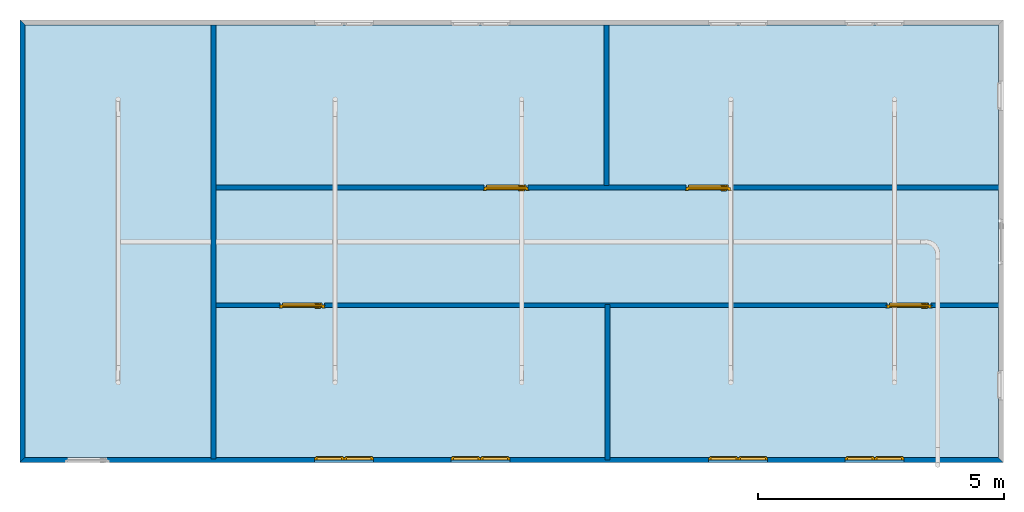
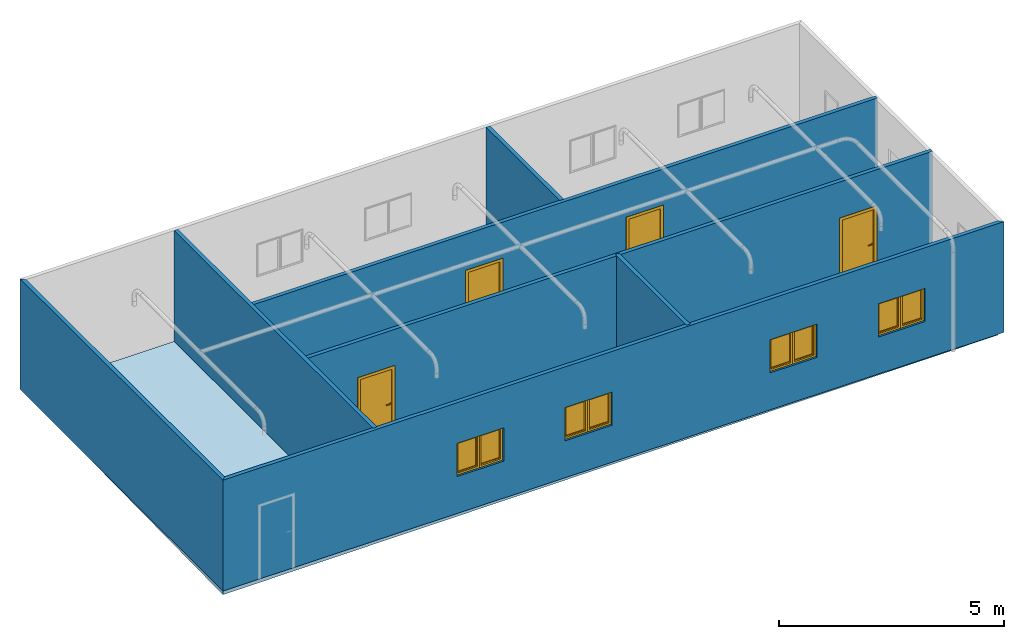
# One storey, part 1 of 4: 8 windows, 7 walls, 4 doors, 1 slab, 12 openings.
"""IFC4 building model written with IfcOpenShell, lengths in metres."""

import ifcopenshell
import ifcopenshell.guid

model = None  # the IFC model being written
_history = None  # IfcOwnerHistory: only IFC2X3 demands one
_inside = {}  # id of a spatial element -> (the spatial element, [elements in it])
_under = {}  # id of a project, library or spatial element -> (it, [spatial elements below it])
_declared = {}  # id of a project -> (the project, [libraries it declares])
_typed = {}  # id of a type object -> (the type object, [elements of that type])
_made_of = {}  # id of a material, layer set ... -> (it, [elements and type objects made of it])


def new_model(schema):
    """Start an empty IFC model of exactly this schema.

    Asked for "IFC4X3", IfcOpenShell would pick the latest addendum, in which some entities
    have other attributes; the version numbers below select the first issue.
    IFC2X3 requires an IfcOwnerHistory on every rooted entity: one is made here for all.
    """
    global model, _history
    if schema == "IFC4X3":
        model = ifcopenshell.file(schema_version=(4, 3, 0, 0))
    else:
        model = ifcopenshell.file(schema=schema)
    _inside.clear()
    _under.clear()
    _declared.clear()
    _typed.clear()
    _made_of.clear()
    _history = None
    if model.schema == "IFC2X3":
        org = make("IfcOrganization", Name="unknown")
        user = make(
            "IfcPersonAndOrganization",
            ThePerson=make("IfcPerson", FamilyName="unknown"),
            TheOrganization=org,
        )
        app = make(
            "IfcApplication",
            ApplicationDeveloper=org,
            Version="unknown",
            ApplicationFullName="unknown",
            ApplicationIdentifier="unknown",
        )
        _history = make(
            "IfcOwnerHistory",
            OwningUser=user,
            OwningApplication=app,
            ChangeAction="ADDED",
            CreationDate=0,
        )
    return model


def make(cls, **values):
    """One entity of the class cls with the attributes given. An attribute that is None is left unset."""
    return model.create_entity(
        cls, **{name: value for name, value in values.items() if value is not None}
    )


def entity(cls, *values):
    """Any entity or typed value of the class cls, its attributes in the order of the schema. None: left unset."""
    e = model.create_entity(cls)
    for i, value in enumerate(values):
        if value is not None:
            e[i] = value
    return e


def rooted(cls, **values):
    """An entity with a GlobalId (a new one), such as an element, a storey or a relation."""
    return make(cls, GlobalId=ifcopenshell.guid.new(), OwnerHistory=_history, **values)


def si_unit(unit_type, name, prefix=None):
    """IfcSIUnit, for example si_unit("LENGTHUNIT", "METRE", prefix="MILLI")."""
    return make("IfcSIUnit", UnitType=unit_type, Prefix=prefix, Name=name)


def converted_unit(unit_type, name, factor, base, dimensions=None, offset=None):
    """IfcConversionBasedUnit, such as the inch: factor (a typed value) times the base unit."""
    return make(
        "IfcConversionBasedUnit"
        if offset is None
        else "IfcConversionBasedUnitWithOffset",
        ConversionOffset=offset,
        Dimensions=None
        if dimensions is None
        else entity("IfcDimensionalExponents", *dimensions),
        UnitType=unit_type,
        Name=name,
        ConversionFactor=make(
            "IfcMeasureWithUnit", ValueComponent=factor, UnitComponent=base
        ),
    )


def assignment(units):
    """IfcUnitAssignment: the units of a project."""
    return None if units is None else make("IfcUnitAssignment", Units=units)


def point(xyz):
    """IfcCartesianPoint."""
    return None if xyz is None else make("IfcCartesianPoint", Coordinates=xyz)


def direction(xyz):
    """IfcDirection."""
    return None if xyz is None else make("IfcDirection", DirectionRatios=xyz)


def frame(location, z_axis=None, x_axis=None):
    """IfcAxis2Placement3D, a coordinate frame: its origin and axes. An axis left out is left unset."""
    return make(
        "IfcAxis2Placement3D",
        Location=point(location),
        Axis=direction(z_axis),
        RefDirection=direction(x_axis),
    )


def frame_2d(location, x_axis=None):
    """IfcAxis2Placement2D, a coordinate frame in the plane: its origin and x axis."""
    return make(
        "IfcAxis2Placement2D", Location=point(location), RefDirection=direction(x_axis)
    )


def origin_with_axes():
    """The frame at (0, 0, 0) with the z axis (0, 0, 1) and the x axis (1, 0, 0) written out."""
    return frame((0.0, 0.0, 0.0), z_axis=(0.0, 0.0, 1.0), x_axis=(1.0, 0.0, 0.0))


def origin_2d_with_axis():
    """The frame at (0, 0) in the plane with the x axis (1, 0) written out."""
    return frame_2d((0.0, 0.0), x_axis=(1.0, 0.0))


def place(relative_to, where):
    """IfcLocalPlacement: puts the frame where relative to a parent placement (None: the world)."""
    return make(
        "IfcLocalPlacement", PlacementRelTo=relative_to, RelativePlacement=where
    )


def context(
    kind, dimensions, precision=None, world=None, true_north=None, identifier=None
):
    """IfcGeometricRepresentationContext, for example the 3D "Model" context."""
    return make(
        "IfcGeometricRepresentationContext",
        ContextIdentifier=identifier,
        ContextType=kind,
        CoordinateSpaceDimension=dimensions,
        Precision=precision,
        WorldCoordinateSystem=world,
        TrueNorth=true_north,
    )


def subcontext(parent, identifier, kind, view, scale=None):
    """IfcGeometricRepresentationSubContext, for example "Body" below "Model"."""
    return make(
        "IfcGeometricRepresentationSubContext",
        ContextIdentifier=identifier,
        ContextType=kind,
        ParentContext=parent,
        TargetScale=scale,
        TargetView=view,
    )


def project(units=None, contexts=None):
    """IfcProject with its units and contexts."""
    return rooted(
        "IfcProject",
        Name="project",
        RepresentationContexts=contexts,
        UnitsInContext=assignment(units),
    )


def spatial(cls, under=None, at=None, **own):
    """A site, building, storey or space (cls), placed at a placement, below another one or the project."""
    s = rooted(cls, ObjectPlacement=at, **own)
    if under is not None:
        _under.setdefault(under.id(), (under, []))[1].append(s)
    return s


def point_list(points):
    """IfcCartesianPointList2D or 3D."""
    cls = (
        "IfcCartesianPointList2D" if len(points[0]) == 2 else "IfcCartesianPointList3D"
    )
    return make(cls, CoordList=points)


def line(*indices):
    """IfcLineIndex: a straight run through numbered points of an indexed curve."""
    return model.create_entity("IfcLineIndex", indices)


def indexed_curve(points, segments=None, self_intersect=None):
    """IfcIndexedPolyCurve: lines and arcs through numbered points (the first is 1)."""
    return make(
        "IfcIndexedPolyCurve",
        Points=point_list(points),
        Segments=segments,
        SelfIntersect=self_intersect,
    )


def outline(outer, holes=None, kind="AREA"):
    """IfcArbitraryClosedProfileDef: a profile drawn as a closed curve; with holes, ...WithVoids."""
    if holes is None:
        return make("IfcArbitraryClosedProfileDef", ProfileType=kind, OuterCurve=outer)
    return make(
        "IfcArbitraryProfileDefWithVoids",
        ProfileType=kind,
        OuterCurve=outer,
        InnerCurves=holes,
    )


def extrude(swept, where, along, depth):
    """IfcExtrudedAreaSolid: the profile swept, set in the frame where, extruded along a direction by depth."""
    return make(
        "IfcExtrudedAreaSolid",
        SweptArea=swept,
        Position=where,
        ExtrudedDirection=direction(along),
        Depth=depth,
    )


def shape(context_of_items, identifier, shape_type, items):
    """IfcShapeRepresentation: the items that make up one representation, for example the "Body"."""
    return make(
        "IfcShapeRepresentation",
        ContextOfItems=context_of_items,
        RepresentationIdentifier=identifier,
        RepresentationType=shape_type,
        Items=items,
    )


def source(mapping_origin, context_of_items, identifier, shape_type, items):
    """IfcRepresentationMap: a shape defined once, which mapped items show again and again."""
    return make(
        "IfcRepresentationMap",
        MappingOrigin=mapping_origin,
        MappedRepresentation=shape(context_of_items, identifier, shape_type, items),
    )


def transform(
    local_origin,
    x_axis=None,
    y_axis=None,
    z_axis=None,
    scale=None,
    scale2=None,
    scale3=None,
    uniform=True,
):
    """IfcCartesianTransformationOperator3D, or its non-uniform kind. x_axis, y_axis, z_axis: its Axis1, 2, 3."""
    if uniform:
        return make(
            "IfcCartesianTransformationOperator3D",
            Axis1=direction(x_axis),
            Axis2=direction(y_axis),
            LocalOrigin=point(local_origin),
            Scale=scale,
            Axis3=direction(z_axis),
        )
    return make(
        "IfcCartesianTransformationOperator3DnonUniform",
        Axis1=direction(x_axis),
        Axis2=direction(y_axis),
        LocalOrigin=point(local_origin),
        Scale=scale,
        Axis3=direction(z_axis),
        Scale2=scale2,
        Scale3=scale3,
    )


def mapped(mapping_source, mapping_target):
    """IfcMappedItem: shows the shape of a source again, moved by a transform."""
    return make(
        "IfcMappedItem", MappingSource=mapping_source, MappingTarget=mapping_target
    )


def material(Name=None, Category=None):
    """IfcMaterial."""
    return make("IfcMaterial", Name=Name, Category=Category)


def layer(
    of_material, thickness, ventilated=None, Name=None, Category=None, Priority=None
):
    """IfcMaterialLayer: one layer of a wall or slab, of a material (None: an air gap)."""
    return make(
        "IfcMaterialLayer",
        Material=of_material,
        LayerThickness=thickness,
        IsVentilated=ventilated,
        Name=Name,
        Category=Category,
        Priority=Priority,
    )


def layer_set(layers, Name=None):
    """IfcMaterialLayerSet."""
    return make("IfcMaterialLayerSet", MaterialLayers=layers, LayerSetName=Name)


def layer_usage(for_layer_set, set_direction, sense, offset, extent=None):
    """IfcMaterialLayerSetUsage: how a layer set lies in its element."""
    return make(
        "IfcMaterialLayerSetUsage",
        ForLayerSet=for_layer_set,
        LayerSetDirection=set_direction,
        DirectionSense=sense,
        OffsetFromReferenceLine=offset,
        ReferenceExtent=extent,
    )


def made_of(thing, what):
    """Note that an element or type object is made of a material, layer set ...; save() writes the relation."""
    if what is not None:
        _made_of.setdefault(what.id(), (what, []))[1].append(thing)
    return thing


def type_object(cls, material=None, **own):
    """A type object (cls), such as IfcWallType, which elements share."""
    return made_of(rooted(cls, **own), material)


def type_shapes(of_type, sources):
    """Give a type object the sources (RepresentationMaps) that its elements show as mapped items."""
    of_type.RepresentationMaps = sources


def element(
    cls,
    number,
    at=None,
    inside=None,
    cuts=None,
    type_object=None,
    material=None,
    context=None,
    identifier="Body",
    shape_type=None,
    held_by="IfcProductDefinitionShape",
    body=None,
    shapes=None,
    **own,
):
    """One element of the class cls, such as IfcWall. Its Tag is "e" and its number.

    at: its placement. inside: the storey or other place that contains it. cuts: it is an
    opening in that element (IfcRelVoidsElement). A single representation is given by context,
    identifier, shape_type and body (its items); several are given by shapes. held_by: the class
    of the entity that holds the representations. save() writes the other relations.
    """
    e = rooted(cls, Tag="e%d" % number, ObjectPlacement=at, **own)
    if body is not None:
        shapes = [shape(context, identifier, shape_type, body)]
    if shapes is not None:
        e.Representation = make(held_by, Representations=shapes)
    if inside is not None:
        _inside.setdefault(inside.id(), (inside, []))[1].append(e)
    if cuts is not None:
        rooted(
            "IfcRelVoidsElement", RelatingBuildingElement=cuts, RelatedOpeningElement=e
        )
    if type_object is not None:
        _typed.setdefault(type_object.id(), (type_object, []))[1].append(e)
    return made_of(e, material)


def fill(opening, filler):
    """IfcRelFillsElement: the door or window that sits in an opening."""
    return rooted(
        "IfcRelFillsElement",
        RelatingOpeningElement=opening,
        RelatedBuildingElement=filler,
    )


def aggregate(whole, parts):
    """IfcRelAggregates: a whole, such as a stair, and the parts it consists of."""
    return rooted("IfcRelAggregates", RelatingObject=whole, RelatedObjects=parts)


def save(model, path):
    """Write the relations noted so far, then the file.

    IfcRelAggregates (storeys below a building ...), IfcRelContainedInSpatialStructure (elements
    in a storey), IfcRelDefinesByType, IfcRelAssociatesMaterial and IfcRelDeclares: one each for
    every whole, place, type object, material and project.
    """
    for whole, parts in _under.values():
        aggregate(whole, parts)
    for where, things in _inside.values():
        rooted(
            "IfcRelContainedInSpatialStructure",
            RelatedElements=things,
            RelatingStructure=where,
        )
    for kind, things in _typed.values():
        rooted("IfcRelDefinesByType", RelatedObjects=things, RelatingType=kind)
    for what, things in _made_of.values():
        rooted("IfcRelAssociatesMaterial", RelatedObjects=things, RelatingMaterial=what)
    for by, libraries in _declared.values():
        rooted("IfcRelDeclares", RelatingContext=by, RelatedDefinitions=libraries)
    model.write(path)


model = new_model("IFC4")

# Units and contexts
model_context = context("Model", 3, precision=1e-05, world=origin_with_axes())
plan_context = context("Plan", 2, precision=1e-05, world=origin_2d_with_axis())
body_context_1 = subcontext(model_context, "Body", "Model", "MODEL_VIEW")
body_context_2 = subcontext(plan_context, "Body", "Plan", "PLAN_VIEW")
ifc_project = project(units=[si_unit("LENGTHUNIT", "METRE"), converted_unit("PLANEANGLEUNIT", "degree", entity("IfcReal", 0.0174532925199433), si_unit("PLANEANGLEUNIT", "RADIAN"), dimensions=[0, 0, 0, 0, 0, 0, 0]), si_unit("AREAUNIT", "SQUARE_METRE"), si_unit("VOLUMEUNIT", "CUBIC_METRE")], contexts=[model_context, plan_context])

# Site, building, storey
site_placement = place(None, origin_with_axes())
site = spatial("IfcSite", under=ifc_project, at=site_placement, Name="My Site")
building_placement = place(site_placement, origin_with_axes())
building = spatial("IfcBuilding", under=site, at=building_placement, Name="My Building")
storey_placement = place(building_placement, origin_with_axes())
storey = spatial("IfcBuildingStorey", under=building, at=storey_placement, Name="GF")

# Slab
ifc_material = material(Name="Unknown")
ifc_layer_1 = layer(ifc_material, 0.1)
ifc_layer_set_1 = layer_set([ifc_layer_1])
ifc_layer_usage_1 = layer_usage(ifc_layer_set_1, "AXIS3", "POSITIVE", -0.100000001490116)
slab_type = type_object("IfcSlabType", Name="Unnamed", PredefinedType="FLOOR", material=ifc_layer_set_1)
slab_placement = place(storey_placement, frame((0.0999984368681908, 8.90000820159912, 0.0), z_axis=(0.0, 0.0, 1.0), x_axis=(1.0, 0.0, 0.0)))
element("IfcSlab", 1, at=slab_placement, inside=storey, type_object=slab_type, material=ifc_layer_usage_1, Name="Slab", context=body_context_1, shape_type="SweptSolid", body=[
    extrude(outline(indexed_curve([(0.0, 0.0), (19.8000011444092, -8.58306884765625e-06), (19.8000011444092, -8.80000782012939), (-0.0999984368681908, -8.90000820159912), (0.0, 0.0)])), frame((0.0, 0.0, -0.100000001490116), z_axis=(0.0, 0.0, 1.0), x_axis=(1.0, 0.0, 0.0)), (0.0, 0.0, 1.0), 0.1),
])

# Wall, openings, windows
ifc_layer_2 = layer(ifc_material, 0.1)
ifc_layer_set_2 = layer_set([ifc_layer_2])
ifc_layer_usage_2 = layer_usage(ifc_layer_set_2, "AXIS2", "POSITIVE", 0.0)
wall_type = type_object("IfcWallType", Name="Unnamed", PredefinedType="SOLIDWALL", material=ifc_layer_set_2)
wall_1_placement = place(storey_placement, frame((-3.9340253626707e-07, 0.0, 0.0), z_axis=(0.0, 0.0, 1.0), x_axis=(1.0, 0.0, 0.0)))
wall_1 = element("IfcWall", 2, at=wall_1_placement, inside=storey, type_object=wall_type, material=ifc_layer_usage_2, Name="Wall", context=body_context_1, shape_type="SweptSolid", body=[
    extrude(outline(indexed_curve([(0.0, 0.0), (0.100000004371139, 0.1), (19.9000004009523, 0.1), (20.0000003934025, 0.0)], segments=[line(1, 2, 3, 4, 1)])), origin_with_axes(), (0.0, 0.0, 1.0), 3.0),
])
shared_shape_1 = source(origin_with_axes(), body_context_1, "Body", "SweptSolid", [
    extrude(outline(indexed_curve([(0.0, 0.0), (0.600000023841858, 0.0), (0.600000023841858, 0.899999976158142), (0.0, 0.899999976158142)], segments=[line(1, 2, 3, 4, 1)])), frame((0.0, -0.600000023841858, 0.0), z_axis=(0.0, -1.0, 0.0), x_axis=(1.0, 0.0, 0.0)), (0.0, 0.0, -1.0), 1.2),
])
opening_1_placement = place(wall_1_placement, frame((17.38139764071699, 6.556510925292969e-07, 1.0), z_axis=(0.0, 0.0, 1.0), x_axis=(0.9999999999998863, -4.768371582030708e-07, 0.0)))
opening_1 = element("IfcOpeningElement", 3, at=opening_1_placement, cuts=wall_1, Name="Opening", PredefinedType="OPENING", context=body_context_1, shape_type="MappedRepresentation", body=[
    mapped(shared_shape_1, transform((0.0, 0.0, 0.0), x_axis=(1.0, 0.0, 0.0), y_axis=(0.0, 1.0, 0.0), z_axis=(0.0, 0.0, 1.0), scale=1.0)),
])
opening_2_placement = place(wall_1_placement, frame((14.008943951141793, 1.4901161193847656e-07, 1.0), z_axis=(0.0, 0.0, 1.0), x_axis=(0.9999999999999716, -2.3841857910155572e-07, 0.0)))
opening_2 = element("IfcOpeningElement", 4, at=opening_2_placement, cuts=wall_1, Name="Opening", PredefinedType="OPENING", context=body_context_1, shape_type="MappedRepresentation", body=[
    mapped(shared_shape_1, transform((0.0, 0.0, 0.0), x_axis=(1.0, 0.0, 0.0), y_axis=(0.0, 1.0, 0.0), z_axis=(0.0, 0.0, 1.0), scale=1.0)),
])
opening_3_placement = place(wall_1_placement, frame((6.59240666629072, 1.4901161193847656e-07, 1.0), z_axis=(0.0, 0.0, 1.0), x_axis=(0.9999999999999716, -2.3841857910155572e-07, 0.0)))
opening_3 = element("IfcOpeningElement", 5, at=opening_3_placement, cuts=wall_1, Name="Opening", PredefinedType="OPENING", context=body_context_1, shape_type="MappedRepresentation", body=[
    mapped(shared_shape_1, transform((0.0, 0.0, 0.0), x_axis=(1.0, 0.0, 0.0), y_axis=(0.0, 1.0, 0.0), z_axis=(0.0, 0.0, 1.0), scale=1.0)),
])
opening_4_placement = place(wall_1_placement, frame((5.992404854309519, 1.4901161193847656e-07, 1.0), z_axis=(0.0, 0.0, 1.0), x_axis=(0.9999999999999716, -2.3841857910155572e-07, 0.0)))
opening_4 = element("IfcOpeningElement", 6, at=opening_4_placement, cuts=wall_1, Name="Opening", PredefinedType="OPENING", context=body_context_1, shape_type="MappedRepresentation", body=[
    mapped(shared_shape_1, transform((0.0, 0.0, 0.0), x_axis=(1.0, 0.0, 0.0), y_axis=(0.0, 1.0, 0.0), z_axis=(0.0, 0.0, 1.0), scale=1.0)),
])
opening_5_placement = place(wall_1_placement, frame((14.608945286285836, 1.4901161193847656e-07, 1.0), z_axis=(0.0, 0.0, 1.0), x_axis=(0.9999999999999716, -2.3841857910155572e-07, 0.0)))
opening_5 = element("IfcOpeningElement", 7, at=opening_5_placement, cuts=wall_1, Name="Opening", PredefinedType="OPENING", context=body_context_1, shape_type="MappedRepresentation", body=[
    mapped(shared_shape_1, transform((0.0, 0.0, 0.0), x_axis=(1.0, 0.0, 0.0), y_axis=(0.0, 1.0, 0.0), z_axis=(0.0, 0.0, 1.0), scale=1.0)),
])
opening_6_placement = place(wall_1_placement, frame((16.78139535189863, 1.4901161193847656e-07, 1.0), z_axis=(0.0, 0.0, 1.0), x_axis=(0.9999999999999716, -2.3841857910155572e-07, 0.0)))
opening_6 = element("IfcOpeningElement", 8, at=opening_6_placement, cuts=wall_1, Name="Opening", PredefinedType="OPENING", context=body_context_1, shape_type="MappedRepresentation", body=[
    mapped(shared_shape_1, transform((0.0, 0.0, 0.0), x_axis=(1.0, 0.0, 0.0), y_axis=(0.0, 1.0, 0.0), z_axis=(0.0, 0.0, 1.0), scale=1.0)),
])
opening_7_placement = place(wall_1_placement, frame((9.364858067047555, 1.4901161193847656e-07, 1.0), z_axis=(0.0, 0.0, 1.0), x_axis=(0.9999999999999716, -2.3841857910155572e-07, 0.0)))
opening_7 = element("IfcOpeningElement", 9, at=opening_7_placement, cuts=wall_1, Name="Opening", PredefinedType="OPENING", context=body_context_1, shape_type="MappedRepresentation", body=[
    mapped(shared_shape_1, transform((0.0, 0.0, 0.0), x_axis=(1.0, 0.0, 0.0), y_axis=(0.0, 1.0, 0.0), z_axis=(0.0, 0.0, 1.0), scale=1.0)),
])
opening_8_placement = place(wall_1_placement, frame((8.764856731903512, 1.4901161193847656e-07, 1.0), z_axis=(0.0, 0.0, 1.0), x_axis=(0.9999999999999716, -2.3841857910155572e-07, 0.0)))
opening_8 = element("IfcOpeningElement", 10, at=opening_8_placement, cuts=wall_1, Name="Opening", PredefinedType="OPENING", context=body_context_1, shape_type="MappedRepresentation", body=[
    mapped(shared_shape_1, transform((0.0, 0.0, 0.0), x_axis=(1.0, 0.0, 0.0), y_axis=(0.0, 1.0, 0.0), z_axis=(0.0, 0.0, 1.0), scale=1.0)),
])
window_type = type_object("IfcWindowType", Name="Unnamed", PartitioningType="SINGLE_PANEL", PredefinedType="WINDOW")
shared_shape_2 = source(origin_with_axes(), body_context_1, "Body", "SweptSolid", [
    extrude(outline(indexed_curve([(0.0, 0.0), (0.600000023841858, 0.0), (0.600000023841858, 0.899999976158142), (0.0, 0.899999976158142)], segments=[line(1, 2, 3, 4, 1)]), holes=[indexed_curve([(0.025000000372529, 0.025000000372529), (0.575000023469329, 0.025000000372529), (0.575000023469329, 0.874999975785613), (0.025000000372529, 0.874999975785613)], segments=[line(1, 2, 3, 4, 1)])]), frame((0.0, 0.0900000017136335, 0.0), z_axis=(0.0, -1.0, 0.0), x_axis=(1.0, 0.0, 0.0)), (0.0, 0.0, -1.0), 0.00999999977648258),
    extrude(outline(indexed_curve([(0.0, 0.0), (0.600000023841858, 0.0), (0.600000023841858, 0.899999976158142), (0.0, 0.899999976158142)], segments=[line(1, 2, 3, 4, 1)]), holes=[indexed_curve([(0.0500000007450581, 0.0500000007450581), (0.5500000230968, 0.0500000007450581), (0.5500000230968, 0.849999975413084), (0.0500000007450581, 0.849999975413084)], segments=[line(1, 2, 3, 4, 1)])]), frame((0.0, 0.0500000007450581, 0.0), z_axis=(0.0, -1.0, 0.0), x_axis=(1.0, 0.0, 0.0)), (0.0, 0.0, -1.0), 0.0400000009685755),
    extrude(outline(indexed_curve([(0.0, 0.0), (0.5500000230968, 0.0), (0.5500000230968, 0.849999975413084), (0.0, 0.849999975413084)], segments=[line(1, 2, 3, 4, 1)]), holes=[indexed_curve([(0.0350000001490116, 0.0350000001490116), (0.515000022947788, 0.0350000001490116), (0.515000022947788, 0.814999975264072), (0.0350000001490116, 0.814999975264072)], segments=[line(1, 2, 3, 4, 1)])]), frame((0.025000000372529, 0.0900000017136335, 0.025000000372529), z_axis=(0.0, -1.0, 0.0), x_axis=(1.0, 0.0, 0.0)), (0.0, 0.0, -1.0), 0.0350000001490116),
    extrude(outline(indexed_curve([(0.0350000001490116, 0.0350000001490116), (0.515000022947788, 0.0350000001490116), (0.515000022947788, 0.814999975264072), (0.0350000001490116, 0.814999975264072)], segments=[line(1, 2, 3, 4, 1)])), frame((0.025000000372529, 0.102500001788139, 0.025000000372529), z_axis=(0.0, -1.0, 0.0), x_axis=(1.0, 0.0, 0.0)), (0.0, 0.0, -1.0), 0.01),
])
shared_shape_3 = source(origin_with_axes(), body_context_2, "Body", "Curve2D", [
    entity("IfcIndexedPolyCurve", entity("IfcCartesianPointList2D", [[0.0500000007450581, 0.0500000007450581], [0.5500000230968, 0.0500000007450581]])),
    entity("IfcIndexedPolyCurve", entity("IfcCartesianPointList2D", [[0.0, 0.100000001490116], [0.025000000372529, 0.100000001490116], [0.025000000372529, 0.0900000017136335], [0.0500000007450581, 0.0900000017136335], [0.0500000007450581, 0.0500000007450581], [0.0, 0.0500000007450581]]), [entity("IfcLineIndex", [1, 2, 3, 4, 5, 6, 1])]),
    entity("IfcIndexedPolyCurve", entity("IfcCartesianPointList2D", [[0.600000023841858, 0.100000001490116], [0.575000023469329, 0.100000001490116], [0.575000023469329, 0.0900000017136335], [0.5500000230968, 0.0900000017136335], [0.5500000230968, 0.0500000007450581], [0.600000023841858, 0.0500000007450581]]), [entity("IfcLineIndex", [1, 2, 3, 4, 5, 6, 1])]),
    entity("IfcIndexedPolyCurve", entity("IfcCartesianPointList2D", [[0.025000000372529, 0.0900000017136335], [0.0600000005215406, 0.0900000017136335], [0.0600000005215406, 0.125000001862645], [0.025000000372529, 0.125000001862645]]), [entity("IfcLineIndex", [1, 2, 3, 4, 1])]),
    entity("IfcIndexedPolyCurve", entity("IfcCartesianPointList2D", [[0.575000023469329, 0.0900000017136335], [0.540000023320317, 0.0900000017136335], [0.540000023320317, 0.125000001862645], [0.575000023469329, 0.125000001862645]]), [entity("IfcLineIndex", [1, 2, 3, 4, 1])]),
    entity("IfcIndexedPolyCurve", entity("IfcCartesianPointList2D", [[0.0600000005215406, 0.0900000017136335], [0.540000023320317, 0.0900000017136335]])),
    entity("IfcIndexedPolyCurve", entity("IfcCartesianPointList2D", [[0.0600000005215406, 0.125000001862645], [0.540000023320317, 0.125000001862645]])),
    entity("IfcIndexedPolyCurve", entity("IfcCartesianPointList2D", [[0.0600000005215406, 0.107500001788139], [0.540000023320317, 0.107500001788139]])),
])
type_shapes(window_type, [shared_shape_2, shared_shape_3])
window_1_placement = place(opening_7_placement, origin_with_axes())
window_1 = element("IfcWindow", 11, at=window_1_placement, inside=storey, type_object=window_type, Name="Window", OverallHeight=0.899999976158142, OverallWidth=0.600000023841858, shapes=[
    shape(body_context_1, "Body", "MappedRepresentation", [mapped(shared_shape_2, transform((0.0, 0.0, 0.0), x_axis=(1.0, 0.0, 0.0), y_axis=(0.0, 1.0, 0.0), z_axis=(0.0, 0.0, 1.0), scale=1.0))]),
    shape(body_context_2, "Body", "MappedRepresentation", [mapped(shared_shape_3, transform((0.0, 0.0, 0.0), x_axis=(1.0, 0.0, 0.0), y_axis=(0.0, 1.0, 0.0), z_axis=(0.0, 0.0, 1.0), scale=1.0))]),
])
fill(opening_7, window_1)
window_2_placement = place(opening_8_placement, origin_with_axes())
window_2 = element("IfcWindow", 12, at=window_2_placement, inside=storey, type_object=window_type, Name="Window", OverallHeight=0.899999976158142, OverallWidth=0.600000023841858, shapes=[
    shape(body_context_1, "Body", "MappedRepresentation", [mapped(shared_shape_2, transform((0.0, 0.0, 0.0), x_axis=(1.0, 0.0, 0.0), y_axis=(0.0, 1.0, 0.0), z_axis=(0.0, 0.0, 1.0), scale=1.0))]),
    shape(body_context_2, "Body", "MappedRepresentation", [mapped(shared_shape_3, transform((0.0, 0.0, 0.0), x_axis=(1.0, 0.0, 0.0), y_axis=(0.0, 1.0, 0.0), z_axis=(0.0, 0.0, 1.0), scale=1.0))]),
])
fill(opening_8, window_2)
window_3_placement = place(opening_1_placement, origin_with_axes())
window_3 = element("IfcWindow", 13, at=window_3_placement, inside=storey, type_object=window_type, Name="Window", OverallHeight=0.899999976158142, OverallWidth=0.600000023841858, shapes=[
    shape(body_context_1, "Body", "MappedRepresentation", [mapped(shared_shape_2, transform((0.0, 0.0, 0.0), x_axis=(1.0, 0.0, 0.0), y_axis=(0.0, 1.0, 0.0), z_axis=(0.0, 0.0, 1.0), scale=1.0))]),
    shape(body_context_2, "Body", "MappedRepresentation", [mapped(shared_shape_3, transform((0.0, 0.0, 0.0), x_axis=(1.0, 0.0, 0.0), y_axis=(0.0, 1.0, 0.0), z_axis=(0.0, 0.0, 1.0), scale=1.0))]),
])
fill(opening_1, window_3)
window_4_placement = place(opening_2_placement, origin_with_axes())
window_4 = element("IfcWindow", 14, at=window_4_placement, inside=storey, type_object=window_type, Name="Window", OverallHeight=0.899999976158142, OverallWidth=0.600000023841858, shapes=[
    shape(body_context_1, "Body", "MappedRepresentation", [mapped(shared_shape_2, transform((0.0, 0.0, 0.0), x_axis=(1.0, 0.0, 0.0), y_axis=(0.0, 1.0, 0.0), z_axis=(0.0, 0.0, 1.0), scale=1.0))]),
    shape(body_context_2, "Body", "MappedRepresentation", [mapped(shared_shape_3, transform((0.0, 0.0, 0.0), x_axis=(1.0, 0.0, 0.0), y_axis=(0.0, 1.0, 0.0), z_axis=(0.0, 0.0, 1.0), scale=1.0))]),
])
fill(opening_2, window_4)
window_5_placement = place(opening_3_placement, origin_with_axes())
window_5 = element("IfcWindow", 15, at=window_5_placement, inside=storey, type_object=window_type, Name="Window", OverallHeight=0.899999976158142, OverallWidth=0.600000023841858, shapes=[
    shape(body_context_1, "Body", "MappedRepresentation", [mapped(shared_shape_2, transform((0.0, 0.0, 0.0), x_axis=(1.0, 0.0, 0.0), y_axis=(0.0, 1.0, 0.0), z_axis=(0.0, 0.0, 1.0), scale=1.0))]),
    shape(body_context_2, "Body", "MappedRepresentation", [mapped(shared_shape_3, transform((0.0, 0.0, 0.0), x_axis=(1.0, 0.0, 0.0), y_axis=(0.0, 1.0, 0.0), z_axis=(0.0, 0.0, 1.0), scale=1.0))]),
])
fill(opening_3, window_5)
window_6_placement = place(opening_4_placement, origin_with_axes())
window_6 = element("IfcWindow", 16, at=window_6_placement, inside=storey, type_object=window_type, Name="Window", OverallHeight=0.899999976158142, OverallWidth=0.600000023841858, shapes=[
    shape(body_context_1, "Body", "MappedRepresentation", [mapped(shared_shape_2, transform((0.0, 0.0, 0.0), x_axis=(1.0, 0.0, 0.0), y_axis=(0.0, 1.0, 0.0), z_axis=(0.0, 0.0, 1.0), scale=1.0))]),
    shape(body_context_2, "Body", "MappedRepresentation", [mapped(shared_shape_3, transform((0.0, 0.0, 0.0), x_axis=(1.0, 0.0, 0.0), y_axis=(0.0, 1.0, 0.0), z_axis=(0.0, 0.0, 1.0), scale=1.0))]),
])
fill(opening_4, window_6)
window_7_placement = place(opening_5_placement, frame((-1.7763568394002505e-15, 0.0, 0.0), z_axis=(0.0, 0.0, 1.0), x_axis=(1.0, 0.0, 0.0)))
window_7 = element("IfcWindow", 17, at=window_7_placement, inside=storey, type_object=window_type, Name="Window", OverallHeight=0.899999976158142, OverallWidth=0.600000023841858, shapes=[
    shape(body_context_1, "Body", "MappedRepresentation", [mapped(shared_shape_2, transform((0.0, 0.0, 0.0), x_axis=(1.0, 0.0, 0.0), y_axis=(0.0, 1.0, 0.0), z_axis=(0.0, 0.0, 1.0), scale=1.0))]),
    shape(body_context_2, "Body", "MappedRepresentation", [mapped(shared_shape_3, transform((0.0, 0.0, 0.0), x_axis=(1.0, 0.0, 0.0), y_axis=(0.0, 1.0, 0.0), z_axis=(0.0, 0.0, 1.0), scale=1.0))]),
])
fill(opening_5, window_7)
window_8_placement = place(opening_6_placement, frame((3.552713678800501e-15, 0.0, 0.0), z_axis=(0.0, 0.0, 1.0), x_axis=(1.0, 0.0, 0.0)))
window_8 = element("IfcWindow", 18, at=window_8_placement, inside=storey, type_object=window_type, Name="Window", OverallHeight=0.899999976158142, OverallWidth=0.600000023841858, shapes=[
    shape(body_context_1, "Body", "MappedRepresentation", [mapped(shared_shape_2, transform((0.0, 0.0, 0.0), x_axis=(1.0, 0.0, 0.0), y_axis=(0.0, 1.0, 0.0), z_axis=(0.0, 0.0, 1.0), scale=1.0))]),
    shape(body_context_2, "Body", "MappedRepresentation", [mapped(shared_shape_3, transform((0.0, 0.0, 0.0), x_axis=(1.0, 0.0, 0.0), y_axis=(0.0, 1.0, 0.0), z_axis=(0.0, 0.0, 1.0), scale=1.0))]),
])
fill(opening_6, window_8)

# Walls
ifc_layer_usage_3 = layer_usage(ifc_layer_set_2, "AXIS2", "POSITIVE", 0.0)
wall_2_placement = place(storey_placement, frame((2.98750424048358e-13, 9.00000778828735, 0.0), z_axis=(0.0, 0.0, 1.0), x_axis=(-4.37113882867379e-08, -0.999999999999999, 0.0)))
element("IfcWall", 19, at=wall_2_placement, inside=storey, type_object=wall_type, material=ifc_layer_usage_3, Name="Wall", context=body_context_1, shape_type="SweptSolid", body=[
    extrude(outline(indexed_curve([(0.0, 0.0), (0.100000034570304, 0.1), (8.90000778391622, 0.1), (9.00000778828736, 0.0)], segments=[line(1, 2, 3, 4, 1)])), origin_with_axes(), (0.0, 0.0, 1.0), 3.0),
])
ifc_layer_usage_4 = layer_usage(ifc_layer_set_2, "AXIS2", "POSITIVE", 0.0)
wall_3_placement = place(storey_placement, frame((3.98975563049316, 0.0754436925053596, 0.0), z_axis=(0.0, 0.0, 1.0), x_axis=(-2.13821749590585e-05, 0.999999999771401, 0.0)))
element("IfcWall", 20, at=wall_3_placement, inside=storey, type_object=wall_type, material=ifc_layer_usage_4, Name="Wall", context=body_context_1, shape_type="SweptSolid", body=[
    extrude(outline(indexed_curve([(0.0, 0.0), (0.0, 0.1), (8.82456285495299, 0.1), (8.82456285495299, 0.0)], segments=[line(1, 2, 3, 4, 1)])), origin_with_axes(), (0.0, 0.0, 1.0), 3.0),
])
ifc_layer_usage_5 = layer_usage(ifc_layer_set_2, "AXIS2", "POSITIVE", 0.0)
wall_4_placement = place(storey_placement, frame((12.0003862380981, 0.0501875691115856, 0.0), z_axis=(0.0, 0.0, 1.0), x_axis=(1.30693106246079e-05, 0.999999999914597, 0.0)))
element("IfcWall", 21, at=wall_4_placement, inside=storey, type_object=wall_type, material=ifc_layer_usage_5, Name="Wall", context=body_context_1, shape_type="SweptSolid", body=[
    extrude(outline(indexed_curve([(0.0, 0.0), (0.0, 0.1), (3.16015021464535, 0.1), (3.16015021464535, 0.0)], segments=[line(1, 2, 3, 4, 1)])), origin_with_axes(), (0.0, 0.0, 1.0), 3.0),
])
ifc_layer_usage_6 = layer_usage(ifc_layer_set_2, "AXIS2", "POSITIVE", 0.0)
wall_5_placement = place(storey_placement, frame((11.9796228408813, 5.63053226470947, 0.0), z_axis=(0.0, 0.0, 1.0), x_axis=(-4.01339264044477e-07, 0.99999999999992, 0.0)))
element("IfcWall", 22, at=wall_5_placement, inside=storey, type_object=wall_type, material=ifc_layer_usage_6, Name="Wall", context=body_context_1, shape_type="SweptSolid", body=[
    extrude(outline(indexed_curve([(0.0, 0.0), (0.0, 0.1), (3.26947116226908, 0.1), (3.26947116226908, 0.0)], segments=[line(1, 2, 3, 4, 1)])), origin_with_axes(), (0.0, 0.0, 1.0), 3.0),
])

# Wall, openings, doors
ifc_layer_usage_7 = layer_usage(ifc_layer_set_2, "AXIS2", "POSITIVE", 0.0)
wall_6_placement = place(storey_placement, frame((3.98968720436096, 3.14717960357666, 0.0), z_axis=(0.0, 0.0, 1.0), x_axis=(1.0, 0.0, 0.0)))
wall_6 = element("IfcWall", 23, at=wall_6_placement, inside=storey, type_object=wall_type, material=ifc_layer_usage_7, Name="Wall", context=body_context_1, shape_type="SweptSolid", body=[
    extrude(outline(indexed_curve([(0.0, 0.0), (0.0, 0.1), (16.0, 0.1), (16.0, 0.0)], segments=[line(1, 2, 3, 4, 1)])), origin_with_axes(), (0.0, 0.0, 1.0), 3.0),
])
shared_shape_4 = source(origin_with_axes(), body_context_1, "Body", "SweptSolid", [
    extrude(outline(indexed_curve([(0.0, 0.0), (0.899999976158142, 0.0), (0.899999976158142, 2.0), (0.0, 2.0)], segments=[line(1, 2, 3, 4, 1)])), frame((0.0, -0.600000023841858, 0.0), z_axis=(0.0, -1.0, 0.0), x_axis=(1.0, 0.0, 0.0)), (0.0, 0.0, -1.0), 1.2),
])
opening_9_placement = place(wall_6_placement, frame((1.30211997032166, 0.0, 0.0), z_axis=(0.0, 0.0, 1.0), x_axis=(1.0, 0.0, 0.0)))
opening_9 = element("IfcOpeningElement", 24, at=opening_9_placement, cuts=wall_6, Name="Opening", PredefinedType="OPENING", context=body_context_1, shape_type="MappedRepresentation", body=[
    mapped(shared_shape_4, transform((0.0, 0.0, 0.0), x_axis=(1.0, 0.0, 0.0), y_axis=(0.0, 1.0, 0.0), z_axis=(0.0, 0.0, 1.0), scale=1.0)),
])
opening_10_placement = place(wall_6_placement, frame((13.6430242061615, 0.0, 0.0), z_axis=(0.0, 0.0, 1.0), x_axis=(1.0, 0.0, 0.0)))
opening_10 = element("IfcOpeningElement", 25, at=opening_10_placement, cuts=wall_6, Name="Opening", PredefinedType="OPENING", context=body_context_1, shape_type="MappedRepresentation", body=[
    mapped(shared_shape_4, transform((0.0, 0.0, 0.0), x_axis=(1.0, 0.0, 0.0), y_axis=(0.0, 1.0, 0.0), z_axis=(0.0, 0.0, 1.0), scale=1.0)),
])
door_type = type_object("IfcDoorType", Name="Unnamed", OperationType="SINGLE_SWING_LEFT", PredefinedType="DOOR")
shared_shape_5 = source(origin_with_axes(), body_context_1, "Body", "SweptSolid", [
    extrude(outline(indexed_curve([(0.0, 0.0), (0.0, 2.0), (0.899999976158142, 2.0), (0.899999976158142, 0.0), (0.874999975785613, 0.0), (0.874999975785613, 1.97499999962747), (0.025000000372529, 1.97499999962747), (0.025000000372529, 0.0)], segments=[line(1, 2, 3, 4, 5, 6, 7, 8, 1)])), frame((0.0, 0.025000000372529, 0.0), z_axis=(0.0, -1.0, 0.0), x_axis=(1.0, 0.0, 0.0)), (0.0, 0.0, -1.0), 0.025000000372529),
    extrude(outline(indexed_curve([(0.0, 0.0), (0.0, 2.0), (0.899999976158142, 2.0), (0.899999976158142, 0.0), (0.849999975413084, 0.0), (0.849999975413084, 1.94999999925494), (0.0500000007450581, 1.94999999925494), (0.0500000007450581, 0.0)], segments=[line(1, 2, 3, 4, 5, 6, 7, 8, 1)])), frame((0.0, 0.0, 0.0), z_axis=(0.0, -1.0, 0.0), x_axis=(1.0, 0.0, 0.0)), (0.0, 0.0, -1.0), 0.025000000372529),
    extrude(outline(indexed_curve([(0.0, 0.0), (0.849999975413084, 0.0), (0.849999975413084, 0.0350000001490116), (0.0, 0.0350000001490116)], segments=[line(1, 2, 3, 4, 1)])), frame((0.025000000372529, 0.025000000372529, 0.025000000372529), z_axis=(0.0, 0.0, 1.0), x_axis=(1.0, 0.0, 0.0)), (0.0, 0.0, 1.0), 1.94999999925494),
    extrude(outline(indexed_curve([(0.0, 0.0), (0.0, -0.04), (-0.12, -0.04), (-0.12, -0.02), (-0.02, -0.02), (-0.02, 0.0)], segments=[line(1, 2, 3, 4, 5, 6, 1)])), frame((0.824999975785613, 0.025000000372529, 1.01500000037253), z_axis=(0.0, 0.0, 1.0), x_axis=(1.0, 0.0, 0.0)), (0.0, 0.0, 1.0), 0.02),
    extrude(outline(indexed_curve([(0.0, 0.0), (0.0, 0.04), (-0.12, 0.04), (-0.12, 0.02), (-0.02, 0.02), (-0.02, 0.0)], segments=[line(1, 2, 3, 4, 5, 6, 1)])), frame((0.824999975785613, 0.0600000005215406, 1.01500000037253), z_axis=(0.0, 0.0, 1.0), x_axis=(1.0, 0.0, 0.0)), (0.0, 0.0, 1.0), 0.02),
    extrude(outline(indexed_curve([(0.0, 0.0), (0.799999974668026, 0.0), (0.799999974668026, 0.100000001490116), (0.0, 0.100000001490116)], segments=[line(1, 2, 3, 4, 1)])), frame((0.0500000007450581, 0.0, 0.0), z_axis=(0.0, 0.0, 1.0), x_axis=(1.0, 0.0, 0.0)), (0.0, 0.0, 1.0), 0.025000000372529),
    extrude(outline(indexed_curve([(0.0, 0.0), (0.0, 2.02500000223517), (0.94999998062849, 2.02500000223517), (0.94999998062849, 0.0), (0.874999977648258, 0.0), (0.874999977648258, 1.94999999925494), (0.0750000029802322, 1.94999999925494), (0.0750000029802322, 0.0)], segments=[line(1, 2, 3, 4, 5, 6, 7, 8, 1)])), frame((-0.0250000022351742, -0.00499999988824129, 0.0), z_axis=(0.0, -1.0, 0.0), x_axis=(1.0, 0.0, 0.0)), (0.0, 0.0, -1.0), 0.00499999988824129),
    extrude(outline(indexed_curve([(0.0, 0.0), (0.0, 2.02500000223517), (0.94999998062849, 2.02500000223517), (0.94999998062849, 0.0), (0.899999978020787, 0.0), (0.899999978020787, 1.97499999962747), (0.0500000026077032, 1.97499999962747), (0.0500000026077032, 0.0)], segments=[line(1, 2, 3, 4, 5, 6, 7, 8, 1)])), frame((-0.0250000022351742, 0.0500000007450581, 0.0), z_axis=(0.0, -1.0, 0.0), x_axis=(1.0, 0.0, 0.0)), (0.0, 0.0, -1.0), 0.00499999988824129),
])
shared_shape_6 = source(origin_with_axes(), body_context_2, "Body", "Curve2D", [
    entity("IfcIndexedPolyCurve", entity("IfcCartesianPointList2D", [[0.0, 0.0], [0.0, 0.0500000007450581], [0.025000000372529, 0.0500000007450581], [0.025000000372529, 0.025000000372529], [0.0500000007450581, 0.025000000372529], [0.0500000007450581, 0.0]]), [entity("IfcLineIndex", [1, 2, 3, 4, 5, 6, 1])]),
    entity("IfcIndexedPolyCurve", entity("IfcCartesianPointList2D", [[0.899999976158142, 0.0], [0.899999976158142, 0.0500000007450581], [0.874999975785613, 0.0500000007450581], [0.874999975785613, 0.025000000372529], [0.849999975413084, 0.025000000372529], [0.849999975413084, 0.0]]), [entity("IfcLineIndex", [1, 2, 3, 4, 5, 6, 1])]),
    entity("IfcTrimmedCurve", entity("IfcEllipse", entity("IfcAxis2Placement2D", entity("IfcCartesianPoint", [0.0600000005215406, 0.0500000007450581]), entity("IfcDirection", [1.0, 0.0])), 0.814999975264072, 0.849999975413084), [entity("IfcCartesianPoint", [0.874999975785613, 0.0500000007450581])], [entity("IfcCartesianPoint", [0.0600000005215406, 0.899999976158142])], True, "CARTESIAN"),
    entity("IfcIndexedPolyCurve", entity("IfcCartesianPointList2D", [[0.025000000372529, 0.0500000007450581], [0.0600000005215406, 0.0500000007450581], [0.0600000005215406, 0.899999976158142], [0.025000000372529, 0.899999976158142]]), [entity("IfcLineIndex", [1, 2, 3, 4, 1])]),
])
type_shapes(door_type, [shared_shape_5, shared_shape_6])
door_1_placement = place(opening_9_placement, origin_with_axes())
door_1 = element("IfcDoor", 26, at=door_1_placement, inside=storey, type_object=door_type, Name="Door", OverallHeight=2.0, OverallWidth=0.899999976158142, shapes=[
    shape(body_context_1, "Body", "MappedRepresentation", [mapped(shared_shape_5, transform((0.0, 0.0, 0.0), x_axis=(1.0, 0.0, 0.0), y_axis=(0.0, 1.0, 0.0), z_axis=(0.0, 0.0, 1.0), scale=1.0))]),
    shape(body_context_2, "Body", "MappedRepresentation", [mapped(shared_shape_6, transform((0.0, 0.0, 0.0), x_axis=(1.0, 0.0, 0.0), y_axis=(0.0, 1.0, 0.0), z_axis=(0.0, 0.0, 1.0), scale=1.0))]),
])
fill(opening_9, door_1)
door_2_placement = place(opening_10_placement, origin_with_axes())
door_2 = element("IfcDoor", 27, at=door_2_placement, inside=storey, type_object=door_type, Name="Door", OverallHeight=2.0, OverallWidth=0.899999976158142, shapes=[
    shape(body_context_1, "Body", "MappedRepresentation", [mapped(shared_shape_5, transform((0.0, 0.0, 0.0), x_axis=(1.0, 0.0, 0.0), y_axis=(0.0, 1.0, 0.0), z_axis=(0.0, 0.0, 1.0), scale=1.0))]),
    shape(body_context_2, "Body", "MappedRepresentation", [mapped(shared_shape_6, transform((0.0, 0.0, 0.0), x_axis=(1.0, 0.0, 0.0), y_axis=(0.0, 1.0, 0.0), z_axis=(0.0, 0.0, 1.0), scale=1.0))]),
])
fill(opening_10, door_2)

ifc_layer_usage_8 = layer_usage(ifc_layer_set_2, "AXIS2", "POSITIVE", 0.0)
wall_7_placement = place(storey_placement, frame((3.96074461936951, 5.54085969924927, 0.0), z_axis=(0.0, 0.0, 1.0), x_axis=(1.0, 0.0, 0.0)))
wall_7 = element("IfcWall", 28, at=wall_7_placement, inside=storey, type_object=wall_type, material=ifc_layer_usage_8, Name="Wall", context=body_context_1, shape_type="SweptSolid", body=[
    extrude(outline(indexed_curve([(0.0, 0.0), (0.0, 0.1), (16.0, 0.1), (16.0, 0.0)], segments=[line(1, 2, 3, 4, 1)])), origin_with_axes(), (0.0, 0.0, 1.0), 3.0),
])
opening_11_placement = place(wall_7_placement, frame((5.47694516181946, 0.0, 0.0), z_axis=(0.0, 0.0, 1.0), x_axis=(1.0, 0.0, 0.0)))
opening_11 = element("IfcOpeningElement", 29, at=opening_11_placement, cuts=wall_7, Name="Opening", PredefinedType="OPENING", context=body_context_1, shape_type="MappedRepresentation", body=[
    mapped(shared_shape_4, transform((0.0, 0.0, 0.0), x_axis=(1.0, 0.0, 0.0), y_axis=(0.0, 1.0, 0.0), z_axis=(0.0, 0.0, 1.0), scale=1.0)),
])
opening_12_placement = place(wall_7_placement, frame((9.5886595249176, 0.0, 0.0), z_axis=(0.0, 0.0, 1.0), x_axis=(1.0, 0.0, 0.0)))
opening_12 = element("IfcOpeningElement", 30, at=opening_12_placement, cuts=wall_7, Name="Opening", PredefinedType="OPENING", context=body_context_1, shape_type="MappedRepresentation", body=[
    mapped(shared_shape_4, transform((0.0, 0.0, 0.0), x_axis=(1.0, 0.0, 0.0), y_axis=(0.0, 1.0, 0.0), z_axis=(0.0, 0.0, 1.0), scale=1.0)),
])
door_3_placement = place(opening_11_placement, origin_with_axes())
door_3 = element("IfcDoor", 31, at=door_3_placement, inside=storey, type_object=door_type, Name="Door", OverallHeight=2.0, OverallWidth=0.899999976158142, shapes=[
    shape(body_context_1, "Body", "MappedRepresentation", [mapped(shared_shape_5, transform((0.0, 0.0, 0.0), x_axis=(1.0, 0.0, 0.0), y_axis=(0.0, 1.0, 0.0), z_axis=(0.0, 0.0, 1.0), scale=1.0))]),
    shape(body_context_2, "Body", "MappedRepresentation", [mapped(shared_shape_6, transform((0.0, 0.0, 0.0), x_axis=(1.0, 0.0, 0.0), y_axis=(0.0, 1.0, 0.0), z_axis=(0.0, 0.0, 1.0), scale=1.0))]),
])
fill(opening_11, door_3)
door_4_placement = place(opening_12_placement, origin_with_axes())
door_4 = element("IfcDoor", 32, at=door_4_placement, inside=storey, type_object=door_type, Name="Door", OverallHeight=2.0, OverallWidth=0.899999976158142, shapes=[
    shape(body_context_1, "Body", "MappedRepresentation", [mapped(shared_shape_5, transform((0.0, 0.0, 0.0), x_axis=(1.0, 0.0, 0.0), y_axis=(0.0, 1.0, 0.0), z_axis=(0.0, 0.0, 1.0), scale=1.0))]),
    shape(body_context_2, "Body", "MappedRepresentation", [mapped(shared_shape_6, transform((0.0, 0.0, 0.0), x_axis=(1.0, 0.0, 0.0), y_axis=(0.0, 1.0, 0.0), z_axis=(0.0, 0.0, 1.0), scale=1.0))]),
])
fill(opening_12, door_4)

save(model, "model.ifc")
